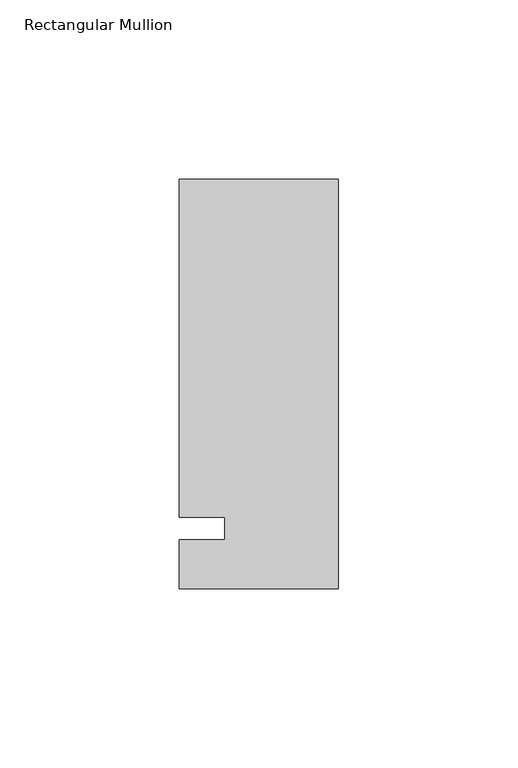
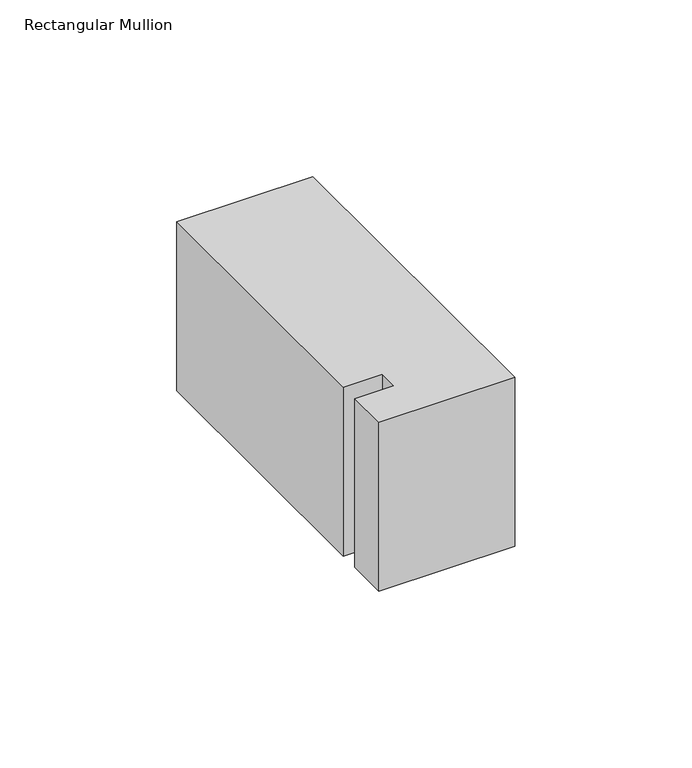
"""IFC4 building model written with IfcOpenShell, lengths in millimetres: member geometry, Rectangular Mullion : Kawneer-TRIFAB_VG_450_BACK_SB_Jamb L."""

from ifc_helpers import new_model, si_unit, frame, origin, place, context, project, spatial, polyline, outline, extrude, source, transform, mapped, element, save


def rectangular_mullion_b3d4cb6b(model_context):
    return source(origin(), model_context, "Body", "SweptSolid", [
        extrude(outline(polyline([(-44.45, -16.8671875), (-44.45, -3.2340721), (-31.7482296, -3.2340721), (-31.7482296, 3.1159279), (-44.45, 3.1159279), (-44.45, 97.4328125), (0.0, 97.4328125), (0.0, -16.8671875), (-44.45, -16.8671875)])), frame((0.0, 0.0, -58.3094027), z_axis=(0.0, 0.0, 1.0), x_axis=(1.0, 0.0, 0.0)), (0.0, 0.0, 1.0), 58.3094027),
    ])


if __name__ == "__main__":
    model = new_model("IFC4")
    model_context = context("Model", 3, world=origin())
    ifc_project = project(units=[si_unit("LENGTHUNIT", "METRE", prefix="MILLI")], contexts=[model_context])
    site = spatial("IfcSite", under=ifc_project)
    building = spatial("IfcBuilding", under=site)
    placement = place(None, origin())
    rectangular_mullion_shape = rectangular_mullion_b3d4cb6b(model_context)
    element("IfcMember", 1, ObjectType="Rectangular Mullion : Kawneer-TRIFAB_VG_450_BACK_SB_Jamb L", at=placement, inside=building, context=model_context, shape_type="MappedRepresentation", body=[
        mapped(rectangular_mullion_shape, transform((0.0, 0.0, 0.0), x_axis=(1.0, 0.0, 0.0), y_axis=(0.0, 1.0, 0.0), z_axis=(0.0, 0.0, 1.0))),
    ])
    save(model, "model.ifc")
